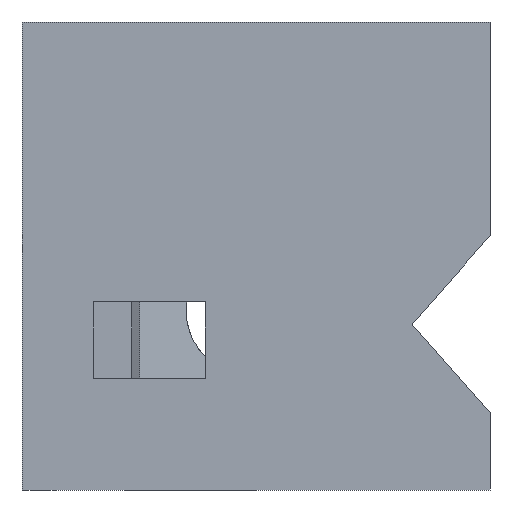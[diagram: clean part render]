
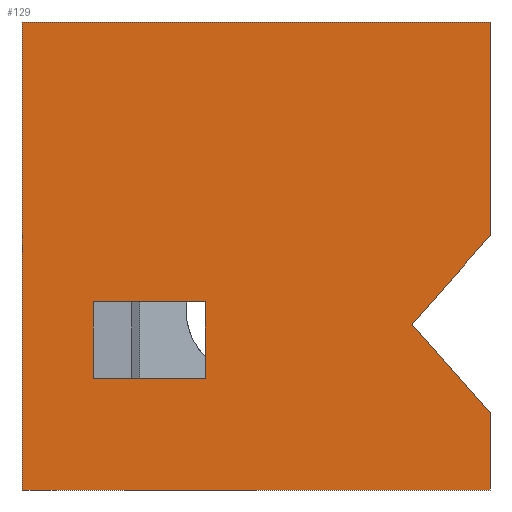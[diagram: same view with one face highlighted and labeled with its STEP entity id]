
A CAD part, front view. The second image highlights one B-rep face of the part: STEP entity #129.
In plain terms, the highlighted planar face has unit normal (0, -1, 0).
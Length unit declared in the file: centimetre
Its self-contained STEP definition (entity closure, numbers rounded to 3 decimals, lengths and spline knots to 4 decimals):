
#3 = VECTOR ( 'NONE', #742, 100. ) ;
#5 = LINE ( 'NONE', #1058, #487 ) ;
#17 = LINE ( 'NONE', #325, #259 ) ;
#24 = VECTOR ( 'NONE', #1235, 100. ) ;
#25 = FACE_OUTER_BOUND ( 'NONE', #260, .T. ) ;
#53 = CARTESIAN_POINT ( 'NONE',  ( 833.5451, 0., 354.283 ) ) ;
#74 = LINE ( 'NONE', #490, #815 ) ;
#88 = ORIENTED_EDGE ( 'NONE', *, *, #837, .F. ) ;
#96 = LINE ( 'NONE', #836, #199 ) ;
#97 = CARTESIAN_POINT ( 'NONE',  ( 1000., 0., 1000. ) ) ;
#128 = VECTOR ( 'NONE', #530, 100. ) ;
#129 = ADVANCED_FACE ( 'NONE', ( #1288, #25 ), #674, .F. ) ;
#134 = CARTESIAN_POINT ( 'NONE',  ( 391.6744, 0., 238.7681 ) ) ;
#151 = ORIENTED_EDGE ( 'NONE', *, *, #1286, .F. ) ;
#191 = CARTESIAN_POINT ( 'NONE',  ( 1000., 0., 542.9304 ) ) ;
#199 = VECTOR ( 'NONE', #1263, 100. ) ;
#211 = CARTESIAN_POINT ( 'NONE',  ( 0., 0., 0. ) ) ;
#233 = VERTEX_POINT ( 'NONE', #920 ) ;
#248 = ORIENTED_EDGE ( 'NONE', *, *, #726, .F. ) ;
#251 = VERTEX_POINT ( 'NONE', #211 ) ;
#259 = VECTOR ( 'NONE', #1048, 100. ) ;
#260 = EDGE_LOOP ( 'NONE', ( #1289, #303, #429, #88, #262, #1101, #297 ) ) ;
#262 = ORIENTED_EDGE ( 'NONE', *, *, #908, .T. ) ;
#297 = ORIENTED_EDGE ( 'NONE', *, *, #937, .F. ) ;
#303 = ORIENTED_EDGE ( 'NONE', *, *, #790, .T. ) ;
#325 = CARTESIAN_POINT ( 'NONE',  ( 152.0708, 0., 238.7681 ) ) ;
#338 = VERTEX_POINT ( 'NONE', #1259 ) ;
#344 = CARTESIAN_POINT ( 'NONE',  ( 0., 0., 1000. ) ) ;
#360 = VERTEX_POINT ( 'NONE', #1139 ) ;
#364 = DIRECTION ( 'NONE',  ( 0., 0., 1. ) ) ;
#429 = ORIENTED_EDGE ( 'NONE', *, *, #1265, .F. ) ;
#430 = DIRECTION ( 'NONE',  ( 1., 0., 0. ) ) ;
#439 = VERTEX_POINT ( 'NONE', #781 ) ;
#445 = DIRECTION ( 'NONE',  ( 0., 0., 1. ) ) ;
#458 = VERTEX_POINT ( 'NONE', #134 ) ;
#487 = VECTOR ( 'NONE', #1182, 100. ) ;
#490 = CARTESIAN_POINT ( 'NONE',  ( 1000., 0., 165.6356 ) ) ;
#492 = VECTOR ( 'NONE', #847, 100. ) ;
#506 = DIRECTION ( 'NONE',  ( -0.662, 0., 0.75 ) ) ;
#518 = VECTOR ( 'NONE', #364, 100. ) ;
#530 = DIRECTION ( 'NONE',  ( -1., 0., 0. ) ) ;
#553 = DIRECTION ( 'NONE',  ( 1., 0., 0. ) ) ;
#568 = DIRECTION ( 'NONE',  ( 0., 1., 0. ) ) ;
#622 = LINE ( 'NONE', #741, #128 ) ;
#635 = CARTESIAN_POINT ( 'NONE',  ( 1000., 0., 1000. ) ) ;
#648 = VERTEX_POINT ( 'NONE', #910 ) ;
#652 = EDGE_CURVE ( 'NONE', #439, #458, #17, .T. ) ;
#674 = PLANE ( 'NONE',  #1044 ) ;
#726 = EDGE_CURVE ( 'NONE', #338, #439, #96, .T. ) ;
#741 = CARTESIAN_POINT ( 'NONE',  ( 152.0708, 0., 401.9846 ) ) ;
#742 = DIRECTION ( 'NONE',  ( 0., 0., -1. ) ) ;
#747 = CARTESIAN_POINT ( 'NONE',  ( 1000., 0., 1000. ) ) ;
#779 = CARTESIAN_POINT ( 'NONE',  ( 391.6744, 0., 238.7681 ) ) ;
#781 = CARTESIAN_POINT ( 'NONE',  ( 152.0708, 0., 238.7681 ) ) ;
#790 = EDGE_CURVE ( 'NONE', #991, #1031, #1320, .T. ) ;
#805 = EDGE_LOOP ( 'NONE', ( #862, #248, #1077, #151 ) ) ;
#808 = EDGE_CURVE ( 'NONE', #648, #991, #74, .T. ) ;
#815 = VECTOR ( 'NONE', #506, 100. ) ;
#836 = CARTESIAN_POINT ( 'NONE',  ( 152.0708, 0., 238.7681 ) ) ;
#837 = EDGE_CURVE ( 'NONE', #360, #1229, #1247, .T. ) ;
#847 = DIRECTION ( 'NONE',  ( 0., 0., -1. ) ) ;
#862 = ORIENTED_EDGE ( 'NONE', *, *, #652, .F. ) ;
#905 = VECTOR ( 'NONE', #430, 100. ) ;
#908 = EDGE_CURVE ( 'NONE', #360, #251, #5, .T. ) ;
#910 = CARTESIAN_POINT ( 'NONE',  ( 1000., 0., 165.6356 ) ) ;
#920 = CARTESIAN_POINT ( 'NONE',  ( 1000., 0., 0. ) ) ;
#937 = EDGE_CURVE ( 'NONE', #648, #233, #1171, .T. ) ;
#961 = LINE ( 'NONE', #779, #518 ) ;
#991 = VERTEX_POINT ( 'NONE', #53 ) ;
#1022 = CARTESIAN_POINT ( 'NONE',  ( 833.5451, 0., 354.283 ) ) ;
#1031 = VERTEX_POINT ( 'NONE', #191 ) ;
#1044 = AXIS2_PLACEMENT_3D ( 'NONE', #344, #568, #445 ) ;
#1048 = DIRECTION ( 'NONE',  ( 1., 0., 0. ) ) ;
#1057 = LINE ( 'NONE', #747, #492 ) ;
#1058 = CARTESIAN_POINT ( 'NONE',  ( 0., 0., 1000. ) ) ;
#1077 = ORIENTED_EDGE ( 'NONE', *, *, #1143, .F. ) ;
#1096 = CARTESIAN_POINT ( 'NONE',  ( 0., 0., 1000. ) ) ;
#1101 = ORIENTED_EDGE ( 'NONE', *, *, #1224, .T. ) ;
#1139 = CARTESIAN_POINT ( 'NONE',  ( 0., 0., 1000. ) ) ;
#1143 = EDGE_CURVE ( 'NONE', #1333, #338, #622, .T. ) ;
#1164 = CARTESIAN_POINT ( 'NONE',  ( 0., 0., 0. ) ) ;
#1171 = LINE ( 'NONE', #97, #3 ) ;
#1172 = VECTOR ( 'NONE', #553, 100. ) ;
#1182 = DIRECTION ( 'NONE',  ( 0., 0., -1. ) ) ;
#1224 = EDGE_CURVE ( 'NONE', #251, #233, #1367, .T. ) ;
#1229 = VERTEX_POINT ( 'NONE', #635 ) ;
#1235 = DIRECTION ( 'NONE',  ( 0.662, 0., 0.75 ) ) ;
#1247 = LINE ( 'NONE', #1096, #1172 ) ;
#1259 = CARTESIAN_POINT ( 'NONE',  ( 152.0708, 0., 401.9846 ) ) ;
#1263 = DIRECTION ( 'NONE',  ( 0., 0., -1. ) ) ;
#1265 = EDGE_CURVE ( 'NONE', #1229, #1031, #1057, .T. ) ;
#1286 = EDGE_CURVE ( 'NONE', #458, #1333, #961, .T. ) ;
#1288 = FACE_BOUND ( 'NONE', #805, .T. ) ;
#1289 = ORIENTED_EDGE ( 'NONE', *, *, #808, .T. ) ;
#1298 = CARTESIAN_POINT ( 'NONE',  ( 391.6744, 0., 401.9846 ) ) ;
#1320 = LINE ( 'NONE', #1022, #24 ) ;
#1333 = VERTEX_POINT ( 'NONE', #1298 ) ;
#1367 = LINE ( 'NONE', #1164, #905 ) ;
